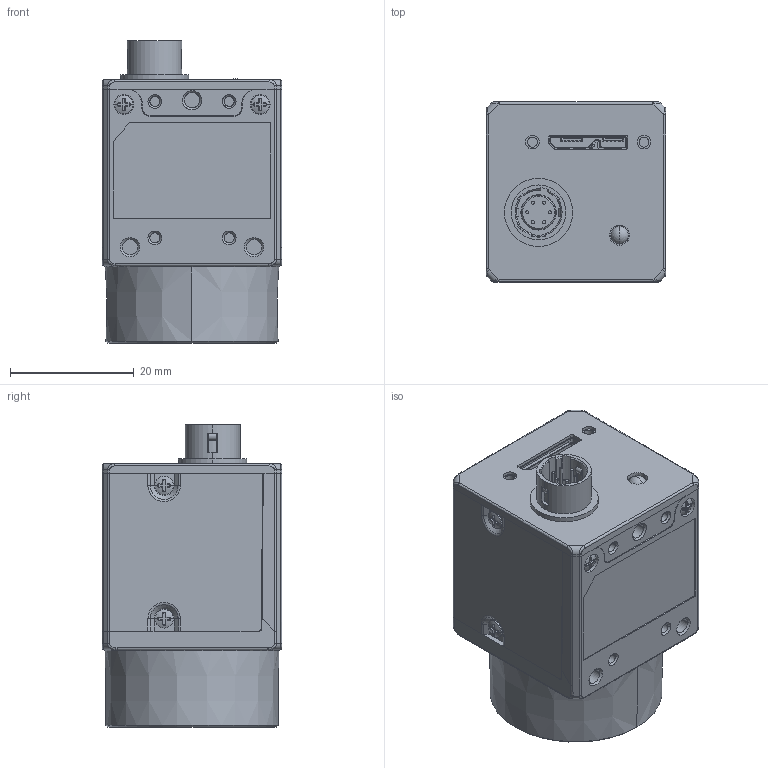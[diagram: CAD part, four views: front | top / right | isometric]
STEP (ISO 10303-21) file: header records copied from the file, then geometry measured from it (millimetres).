
FILE_DESCRIPTION((''),'2;1');
FILE_NAME('MV-CA003-21UMUC','2020-03-11T11:42:34',('wangyijun6'),(''),'CREO PARAMETRIC BY PTC INC, 2017260','CREO PARAMETRIC BY PTC INC, 2017260','');
FILE_SCHEMA(('CONFIG_CONTROL_DESIGN'));
Products named in the file (1): MV-CA003-21UMUC
Bounding box: 29.03 x 29 x 48.81 mm (x, y, z)
Volume: 26607.8 mm3; surface area: 11069.6 mm2
Topology: 1 solids, 13 shells, 1415 faces, 3738 edges, 2383 vertices
Faces by surface type: plane 580, cylinder 317, cone 191, bspline 171, torus 136, sphere 20
Entity records: 56756 total; most frequent: CARTESIAN_POINT 22418, ORIENTED_EDGE 7436, DIRECTION 6966, EDGE_CURVE 3718, AXIS2_PLACEMENT_3D 2570, VERTEX_POINT 2383, VECTOR 1826, LINE 1826
